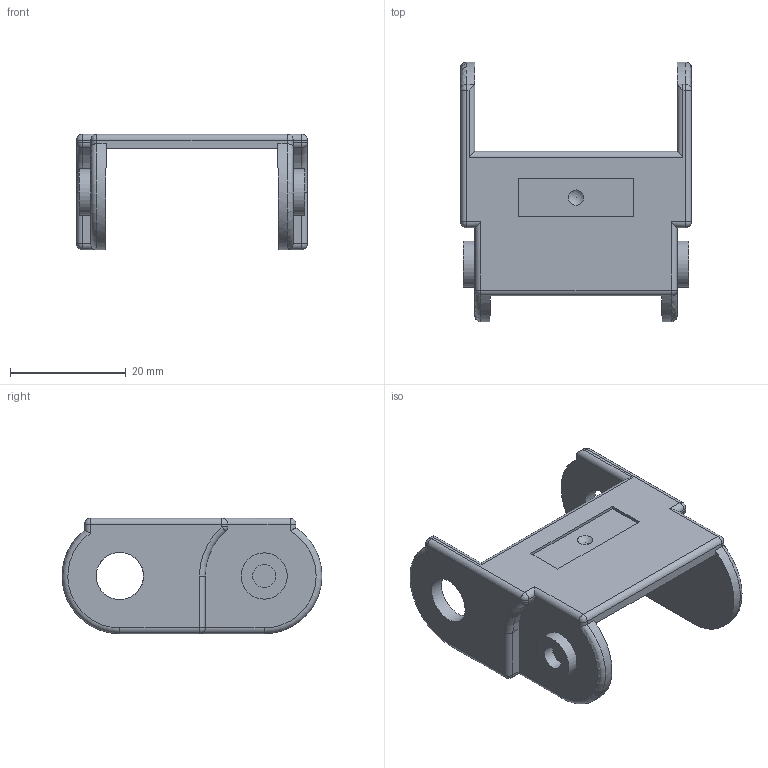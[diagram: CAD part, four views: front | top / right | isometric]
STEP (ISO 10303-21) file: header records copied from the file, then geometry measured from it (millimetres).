
FILE_DESCRIPTION(/* description */ (''),/* implementation_level */ '2;1');
FILE_NAME(/* name */ '拖链CP.step',/* time_stamp */ '2019-04-23T14:04:24+08:00',/* author */ (''),/* organization */ (''),/* preprocessor_version */ 'ST-DEVELOPER v16',/* originating_system */ 'SIEMENS PLM Software NX 10.0',/* authorisation */ '');
FILE_SCHEMA (('AUTOMOTIVE_DESIGN { 1 0 10303 214 3 1 1 1 }'));
Length unit declared in the file: millimetre
Products named in the file (2): 拖链CP_id6_x_t; 拖链CP_x_t
Assembly tree (1 placements, depth 2):
  拖链CP_x_t
    拖链CP_id6_x_t
Bounding box: 40 x 44.98 x 20 mm (x, y, z)
Volume: 6278.4 mm3; surface area: 5550.6 mm2
Topology: 1 solids, 1 shells, 95 faces, 233 edges, 135 vertices
Faces by surface type: cylinder 45, plane 31, sphere 11, torus 6, bspline 2
Full cylindrical faces by diameter (mm): 4 x2, 8 x2, 8.2 x2
Entity records: 2799 total; most frequent: CARTESIAN_POINT 599, DIRECTION 480, ORIENTED_EDGE 422, EDGE_CURVE 211, AXIS2_PLACEMENT_3D 186, VERTEX_POINT 130, EDGE_LOOP 111, LINE 108
